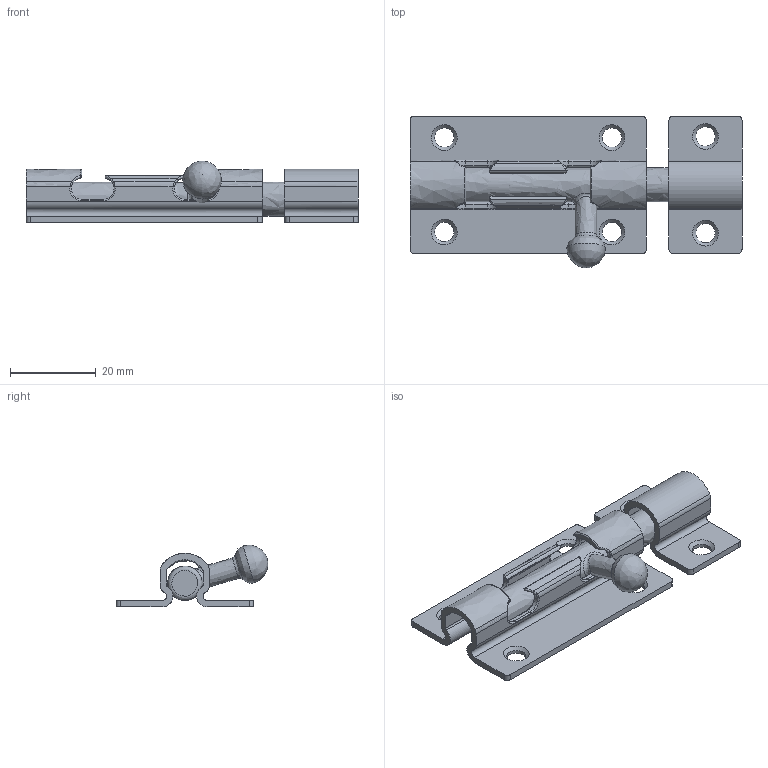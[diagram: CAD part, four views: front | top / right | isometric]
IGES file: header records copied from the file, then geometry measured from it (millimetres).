
Global section: file name: DR_ODS1-3; native system: Autodesk Inventor 2015; preprocessor: unknown; author: Administrator; date: 20170901.163656; units: millimetre
Bounding box: 77.29 x 35.35 x 14.43 mm (x, y, z)
Volume: 8781.6 mm3; surface area: 9495 mm2
Topology: 3 solids, 3 shells, 196 faces, 507 edges, 315 vertices
Faces by surface type: bspline 196
